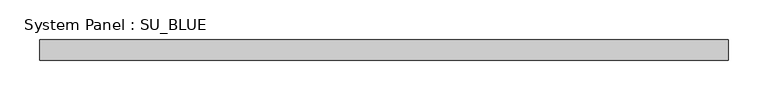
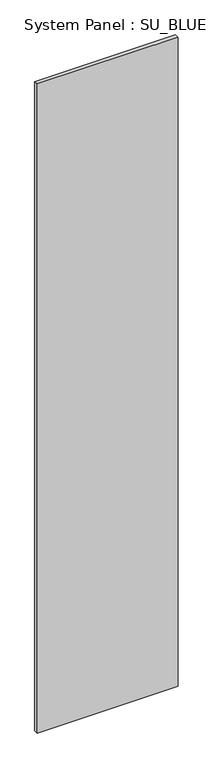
"""IFC4 building model written with IfcOpenShell, lengths in millimetres: plate geometry, System Panel : SU_BLUE."""

from ifc_helpers import new_model, si_unit, origin, origin_with_axes, place, context, project, spatial, polyline, outline, extrude, source, transform, mapped, element, save


def system_panel_su_blue_e3caad35(model_context):
    return source(origin(), model_context, "Body", "SweptSolid", [
        extrude(outline(polyline([(431.2346078, 19.05), (-431.2346078, 19.05), (-431.2346078, 44.45), (431.2346078, 44.45), (431.2346078, 19.05)])), origin_with_axes(), (0.0, 0.0, 1.0), 4203.7),
    ])


if __name__ == "__main__":
    model = new_model("IFC4")
    model_context = context("Model", 3, world=origin())
    ifc_project = project(units=[si_unit("LENGTHUNIT", "METRE", prefix="MILLI")], contexts=[model_context])
    site = spatial("IfcSite", under=ifc_project)
    building = spatial("IfcBuilding", under=site)
    placement = place(None, origin())
    system_panel_su_blue_shape = system_panel_su_blue_e3caad35(model_context)
    element("IfcPlate", 1, ObjectType="System Panel : SU_BLUE", at=placement, inside=building, context=model_context, shape_type="MappedRepresentation", body=[
        mapped(system_panel_su_blue_shape, transform((0.0, 0.0, 0.0), x_axis=(1.0, 0.0, 0.0), y_axis=(0.0, 1.0, 0.0), z_axis=(0.0, 0.0, 1.0))),
    ])
    save(model, "model.ifc")
